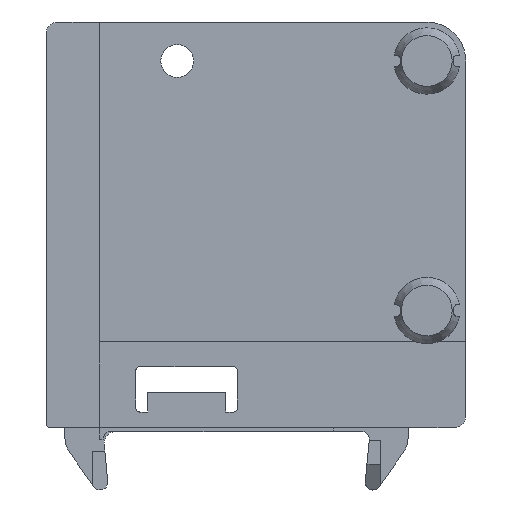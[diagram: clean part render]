
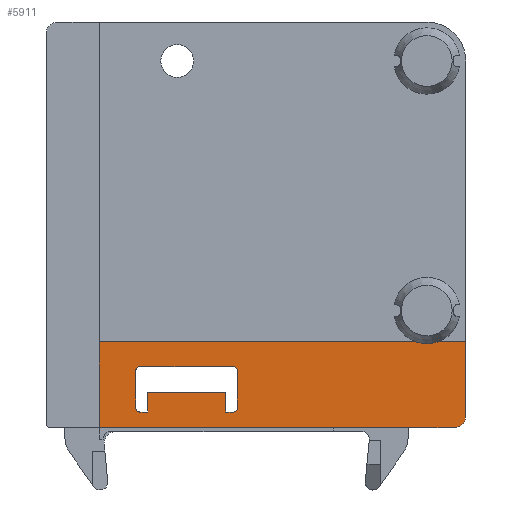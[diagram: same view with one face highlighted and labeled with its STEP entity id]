
A CAD part, front view. The second image highlights one B-rep face of the part: STEP entity #5911.
In plain terms, the highlighted planar face has unit normal (0, -1, 0).
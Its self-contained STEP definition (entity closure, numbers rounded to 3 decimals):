
#925 = AXIS2_PLACEMENT_3D ( 'NONE', #3092, #3094, #3085 ) ;
#1345 = CARTESIAN_POINT ( 'NONE',  ( -35.8, 1., -42.5 ) ) ;
#1346 = CARTESIAN_POINT ( 'NONE',  ( -25.8, 1., -42.5 ) ) ;
#1347 = CARTESIAN_POINT ( 'NONE',  ( -25.8, 1., -45. ) ) ;
#1348 = CARTESIAN_POINT ( 'NONE',  ( -24.8, 1., -45. ) ) ;
#1349 = CARTESIAN_POINT ( 'NONE',  ( -24.3, 1., -44.5 ) ) ;
#1350 = CARTESIAN_POINT ( 'NONE',  ( -24.3, 1., -39.7 ) ) ;
#1351 = CARTESIAN_POINT ( 'NONE',  ( -24.8, 1., -39.2 ) ) ;
#1352 = CARTESIAN_POINT ( 'NONE',  ( -36.8, 1., -39.2 ) ) ;
#1353 = CARTESIAN_POINT ( 'NONE',  ( -37.3, 1., -39.7 ) ) ;
#1354 = CARTESIAN_POINT ( 'NONE',  ( -37.3, 1., -44.5 ) ) ;
#1356 = CARTESIAN_POINT ( 'NONE',  ( -36.8, 1., -45. ) ) ;
#1360 = CARTESIAN_POINT ( 'NONE',  ( -35.8, 1., -45. ) ) ;
#1361 = CARTESIAN_POINT ( 'NONE',  ( -42., 1., -36. ) ) ;
#1362 = CARTESIAN_POINT ( 'NONE',  ( 5., 1., -36. ) ) ;
#1363 = CARTESIAN_POINT ( 'NONE',  ( -12., 1., -47. ) ) ;
#1364 = CARTESIAN_POINT ( 'NONE',  ( -42., 1., -47. ) ) ;
#1365 = CARTESIAN_POINT ( 'NONE',  ( 5., 1., -45.5 ) ) ;
#1366 = CARTESIAN_POINT ( 'NONE',  ( 3.5, 1., -47. ) ) ;
#3085 = DIRECTION ( 'NONE',  ( 1., 0., 0. ) ) ;
#3088 = PLANE ( 'NONE',  #925 ) ;
#3091 = FACE_OUTER_BOUND ( 'NONE', #9977, .T. ) ;
#3092 = CARTESIAN_POINT ( 'NONE',  ( 5., 1., -36. ) ) ;
#3094 = DIRECTION ( 'NONE',  ( 0., 1., 0. ) ) ;
#3099 = FACE_BOUND ( 'NONE', #10000, .T. ) ;
#3683 = AXIS2_PLACEMENT_3D ( 'NONE', #4461, #4460, #4458 ) ;
#3684 = VECTOR ( 'NONE', #4471, 1000. ) ;
#3685 = AXIS2_PLACEMENT_3D ( 'NONE', #4492, #4491, #4490 ) ;
#3697 = AXIS2_PLACEMENT_3D ( 'NONE', #4453, #4452, #4451 ) ;
#3698 = VECTOR ( 'NONE', #4457, 1000. ) ;
#3699 = VECTOR ( 'NONE', #4475, 1000. ) ;
#3700 = CIRCLE ( 'NONE', #3683, 0.5 ) ;
#3712 = VECTOR ( 'NONE', #4450, 1000. ) ;
#3714 = VECTOR ( 'NONE', #4480, 1000. ) ;
#3727 = CIRCLE ( 'NONE', #3697, 0.5 ) ;
#3728 = VECTOR ( 'NONE', #4466, 1000. ) ;
#3729 = VECTOR ( 'NONE', #4484, 1000. ) ;
#3730 = CIRCLE ( 'NONE', #3685, 1.5 ) ;
#3733 = VECTOR ( 'NONE', #4488, 1000. ) ;
#4329 = LINE ( 'NONE', #4350, #3733 ) ;
#4350 = CARTESIAN_POINT ( 'NONE',  ( 5., 1., -47. ) ) ;
#4377 = CARTESIAN_POINT ( 'NONE',  ( -37.3, 1., -44.5 ) ) ;
#4423 = DIRECTION ( 'NONE',  ( 0., 0., -1. ) ) ;
#4424 = CARTESIAN_POINT ( 'NONE',  ( -35.8, 1., -42.5 ) ) ;
#4425 = LINE ( 'NONE', #4424, #8997 ) ;
#4426 = DIRECTION ( 'NONE',  ( -1., 0., 0. ) ) ;
#4427 = CARTESIAN_POINT ( 'NONE',  ( -25.8, 1., -42.5 ) ) ;
#4429 = LINE ( 'NONE', #4427, #9013 ) ;
#4430 = DIRECTION ( 'NONE',  ( 0., 0., 1. ) ) ;
#4431 = CARTESIAN_POINT ( 'NONE',  ( -25.8, 1., -45. ) ) ;
#4432 = LINE ( 'NONE', #4431, #9028 ) ;
#4434 = DIRECTION ( 'NONE',  ( -1., 0., 0. ) ) ;
#4435 = DIRECTION ( 'NONE',  ( -1., 0., 0. ) ) ;
#4437 = DIRECTION ( 'NONE',  ( 0., 1., 0. ) ) ;
#4438 = CARTESIAN_POINT ( 'NONE',  ( -24.8, 1., -44.5 ) ) ;
#4443 = DIRECTION ( 'NONE',  ( 0., 0., -1. ) ) ;
#4444 = DIRECTION ( 'NONE',  ( -1., 0., 0. ) ) ;
#4445 = DIRECTION ( 'NONE',  ( 0., 1., 0. ) ) ;
#4446 = CARTESIAN_POINT ( 'NONE',  ( -24.8, 1., -39.7 ) ) ;
#4447 = CARTESIAN_POINT ( 'NONE',  ( -24.8, 1., -45. ) ) ;
#4449 = LINE ( 'NONE', #4447, #8998 ) ;
#4450 = DIRECTION ( 'NONE',  ( 1., 0., 0. ) ) ;
#4451 = DIRECTION ( 'NONE',  ( -1., 0., 0. ) ) ;
#4452 = DIRECTION ( 'NONE',  ( 0., 1., 0. ) ) ;
#4453 = CARTESIAN_POINT ( 'NONE',  ( -36.8, 1., -39.7 ) ) ;
#4454 = CARTESIAN_POINT ( 'NONE',  ( -24.3, 1., -39.7 ) ) ;
#4456 = LINE ( 'NONE', #4454, #8999 ) ;
#4457 = DIRECTION ( 'NONE',  ( 0., 0., 1. ) ) ;
#4458 = DIRECTION ( 'NONE',  ( -1., 0., 0. ) ) ;
#4460 = DIRECTION ( 'NONE',  ( 0., 1., 0. ) ) ;
#4461 = CARTESIAN_POINT ( 'NONE',  ( -36.8, 1., -44.5 ) ) ;
#4462 = CARTESIAN_POINT ( 'NONE',  ( -36.8, 1., -39.2 ) ) ;
#4464 = LINE ( 'NONE', #4462, #3712 ) ;
#4466 = DIRECTION ( 'NONE',  ( -1., 0., 0. ) ) ;
#4467 = CARTESIAN_POINT ( 'NONE',  ( -35.8, 1., -45. ) ) ;
#4468 = LINE ( 'NONE', #4377, #3698 ) ;
#4470 = LINE ( 'NONE', #4467, #3728 ) ;
#4471 = DIRECTION ( 'NONE',  ( -1., 0., 0. ) ) ;
#4472 = CARTESIAN_POINT ( 'NONE',  ( 5., 1., -47. ) ) ;
#4474 = LINE ( 'NONE', #4472, #3684 ) ;
#4475 = DIRECTION ( 'NONE',  ( -1., 0., 0. ) ) ;
#4477 = CARTESIAN_POINT ( 'NONE',  ( 5., 1., -47. ) ) ;
#4478 = LINE ( 'NONE', #4477, #3699 ) ;
#4480 = DIRECTION ( 'NONE',  ( 0., 0., 1. ) ) ;
#4481 = CARTESIAN_POINT ( 'NONE',  ( -42., 1., -47. ) ) ;
#4483 = LINE ( 'NONE', #4481, #3714 ) ;
#4484 = DIRECTION ( 'NONE',  ( 1., 0., 0. ) ) ;
#4485 = CARTESIAN_POINT ( 'NONE',  ( 5., 1., -36. ) ) ;
#4487 = LINE ( 'NONE', #4485, #3729 ) ;
#4488 = DIRECTION ( 'NONE',  ( 0., 0., -1. ) ) ;
#4490 = DIRECTION ( 'NONE',  ( -1., 0., 0. ) ) ;
#4491 = DIRECTION ( 'NONE',  ( 0., -1., 0. ) ) ;
#4492 = CARTESIAN_POINT ( 'NONE',  ( 3.5, 1., -45.5 ) ) ;
#5448 = EDGE_CURVE ( 'NONE', #6287, #6286, #3730, .T. ) ;
#5449 = EDGE_CURVE ( 'NONE', #6283, #6286, #4329, .T. ) ;
#5450 = EDGE_CURVE ( 'NONE', #6281, #6283, #4487, .T. ) ;
#5451 = EDGE_CURVE ( 'NONE', #6285, #6281, #4483, .T. ) ;
#5452 = EDGE_CURVE ( 'NONE', #6284, #6285, #4478, .T. ) ;
#5453 = EDGE_CURVE ( 'NONE', #6287, #6284, #4474, .T. ) ;
#5454 = EDGE_CURVE ( 'NONE', #6280, #6275, #4470, .T. ) ;
#5455 = EDGE_CURVE ( 'NONE', #6275, #6273, #3700, .T. ) ;
#5456 = EDGE_CURVE ( 'NONE', #6273, #6272, #4468, .T. ) ;
#5457 = EDGE_CURVE ( 'NONE', #6272, #6271, #3727, .T. ) ;
#5458 = EDGE_CURVE ( 'NONE', #6271, #6270, #4464, .T. ) ;
#5459 = EDGE_CURVE ( 'NONE', #6270, #6269, #8984, .T. ) ;
#5460 = EDGE_CURVE ( 'NONE', #6269, #6268, #4456, .T. ) ;
#5461 = EDGE_CURVE ( 'NONE', #6268, #6266, #9014, .T. ) ;
#5462 = EDGE_CURVE ( 'NONE', #6266, #6265, #4449, .T. ) ;
#5463 = EDGE_CURVE ( 'NONE', #6265, #6264, #4432, .T. ) ;
#5464 = EDGE_CURVE ( 'NONE', #6264, #6263, #4429, .T. ) ;
#5465 = EDGE_CURVE ( 'NONE', #6263, #6280, #4425, .T. ) ;
#5911 = ADVANCED_FACE ( 'NONE', ( #3091, #3099 ), #3088, .F. ) ;
#6263 = VERTEX_POINT ( 'NONE', #1345 ) ;
#6264 = VERTEX_POINT ( 'NONE', #1346 ) ;
#6265 = VERTEX_POINT ( 'NONE', #1347 ) ;
#6266 = VERTEX_POINT ( 'NONE', #1348 ) ;
#6268 = VERTEX_POINT ( 'NONE', #1349 ) ;
#6269 = VERTEX_POINT ( 'NONE', #1350 ) ;
#6270 = VERTEX_POINT ( 'NONE', #1351 ) ;
#6271 = VERTEX_POINT ( 'NONE', #1352 ) ;
#6272 = VERTEX_POINT ( 'NONE', #1353 ) ;
#6273 = VERTEX_POINT ( 'NONE', #1354 ) ;
#6275 = VERTEX_POINT ( 'NONE', #1356 ) ;
#6280 = VERTEX_POINT ( 'NONE', #1360 ) ;
#6281 = VERTEX_POINT ( 'NONE', #1361 ) ;
#6283 = VERTEX_POINT ( 'NONE', #1362 ) ;
#6284 = VERTEX_POINT ( 'NONE', #1363 ) ;
#6285 = VERTEX_POINT ( 'NONE', #1364 ) ;
#6286 = VERTEX_POINT ( 'NONE', #1365 ) ;
#6287 = VERTEX_POINT ( 'NONE', #1366 ) ;
#8983 = AXIS2_PLACEMENT_3D ( 'NONE', #4438, #4437, #4435 ) ;
#8984 = CIRCLE ( 'NONE', #9029, 0.5 ) ;
#8997 = VECTOR ( 'NONE', #4423, 1000. ) ;
#8998 = VECTOR ( 'NONE', #4434, 1000. ) ;
#8999 = VECTOR ( 'NONE', #4443, 1000. ) ;
#9013 = VECTOR ( 'NONE', #4426, 1000. ) ;
#9014 = CIRCLE ( 'NONE', #8983, 0.5 ) ;
#9028 = VECTOR ( 'NONE', #4430, 1000. ) ;
#9029 = AXIS2_PLACEMENT_3D ( 'NONE', #4446, #4445, #4444 ) ;
#9977 = EDGE_LOOP ( 'NONE', ( #10038, #10043, #10090, #10045, #10064, #10052 ) ) ;
#10000 = EDGE_LOOP ( 'NONE', ( #10054, #10050, #10078, #10049, #10053, #10032, #10056, #10042, #10048, #10059, #10027, #10036 ) ) ;
#10027 = ORIENTED_EDGE ( 'NONE', *, *, #5464, .T. ) ;
#10032 = ORIENTED_EDGE ( 'NONE', *, *, #5459, .T. ) ;
#10036 = ORIENTED_EDGE ( 'NONE', *, *, #5465, .T. ) ;
#10038 = ORIENTED_EDGE ( 'NONE', *, *, #5448, .T. ) ;
#10042 = ORIENTED_EDGE ( 'NONE', *, *, #5461, .T. ) ;
#10043 = ORIENTED_EDGE ( 'NONE', *, *, #5449, .F. ) ;
#10045 = ORIENTED_EDGE ( 'NONE', *, *, #5451, .F. ) ;
#10048 = ORIENTED_EDGE ( 'NONE', *, *, #5462, .T. ) ;
#10049 = ORIENTED_EDGE ( 'NONE', *, *, #5457, .T. ) ;
#10050 = ORIENTED_EDGE ( 'NONE', *, *, #5455, .T. ) ;
#10052 = ORIENTED_EDGE ( 'NONE', *, *, #5453, .F. ) ;
#10053 = ORIENTED_EDGE ( 'NONE', *, *, #5458, .T. ) ;
#10054 = ORIENTED_EDGE ( 'NONE', *, *, #5454, .T. ) ;
#10056 = ORIENTED_EDGE ( 'NONE', *, *, #5460, .T. ) ;
#10059 = ORIENTED_EDGE ( 'NONE', *, *, #5463, .T. ) ;
#10064 = ORIENTED_EDGE ( 'NONE', *, *, #5452, .F. ) ;
#10078 = ORIENTED_EDGE ( 'NONE', *, *, #5456, .T. ) ;
#10090 = ORIENTED_EDGE ( 'NONE', *, *, #5450, .F. ) ;
